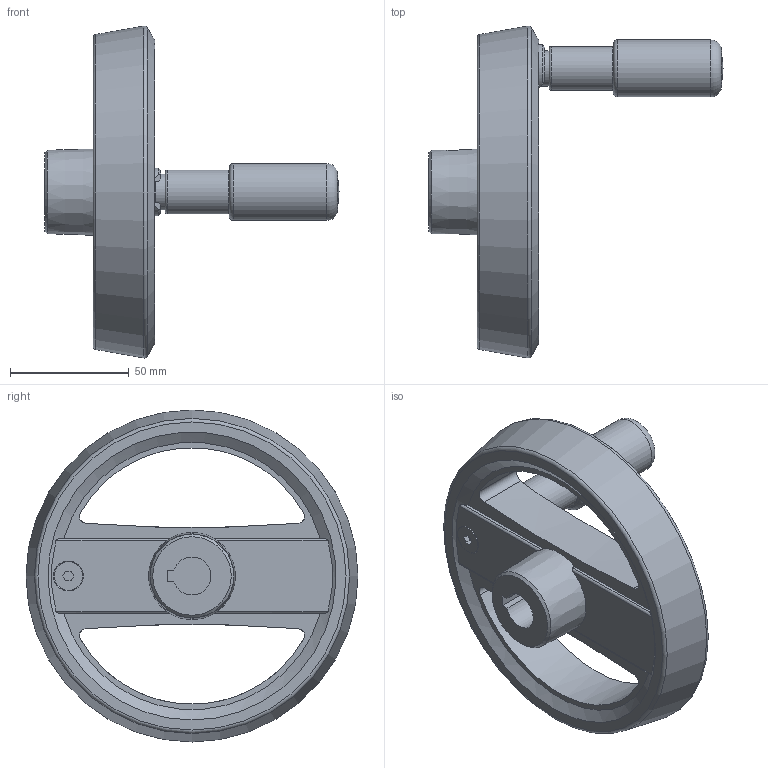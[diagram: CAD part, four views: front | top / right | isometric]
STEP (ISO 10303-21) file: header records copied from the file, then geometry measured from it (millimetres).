
FILE_DESCRIPTION( ( 'STEP AP203' ), '1' );
FILE_NAME( 'C:/Temp/Ganter_Step_05_03_2020/data/1_3/gn_924_7/gn_924_7_k/Handwheel with retractable handle GN 924.7-140-K16-R-SW (activated).stp', '2020-03-05T10:41:59', ( 'License CC BY-ND 4.0' ), ( 'CADENAS' ), ' ', 'PARTsolutions', ' ' );
FILE_SCHEMA( ( 'CONFIG_CONTROL_DESIGN' ) );
Length unit declared in the file: millimetre
Products named in the file (3): Handwheel with retractable handle GN 924.7-140-K16-R-SW (activated); _Umleggriff-Handrad GN 924.7-140-K16-R-SW-1; _Umleggriff-Handrad GN 924.7-140-K16-R-SW (90)-2
Assembly tree (2 placements, depth 2):
  Handwheel with retractable handle GN 924.7-140-K16-R-SW (activated)
    _Umleggriff-Handrad GN 924.7-140-K16-R-SW-1
    _Umleggriff-Handrad GN 924.7-140-K16-R-SW (90)-2
Bounding box: 123.7 x 139.68 x 139.68 mm (x, y, z)
Volume: 222805.2 mm3; surface area: 57988.9 mm2
Topology: 2 solids, 2 shells, 105 faces, 266 edges, 172 vertices
Faces by surface type: plane 47, cylinder 38, cone 10, torus 8, sphere 2
Full cylindrical faces by diameter (mm): 4 x4, 5 x1, 8 x1, 12 x1, 15 x1, 18.5 x1, 20 x1, 24 x1, 25 x1, 26.6 x1
Entity records: 3443 total; most frequent: CARTESIAN_POINT 980, DIRECTION 490, ORIENTED_EDGE 446, EDGE_CURVE 223, AXIS2_PLACEMENT_3D 201, VERTEX_POINT 164, EDGE_LOOP 152, FACE_OUTER_BOUND 125
